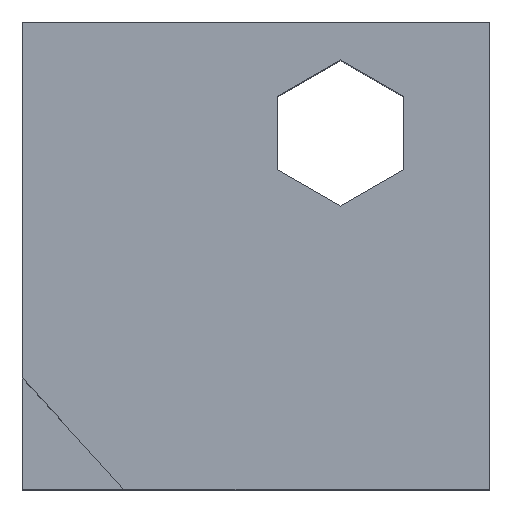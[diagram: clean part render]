
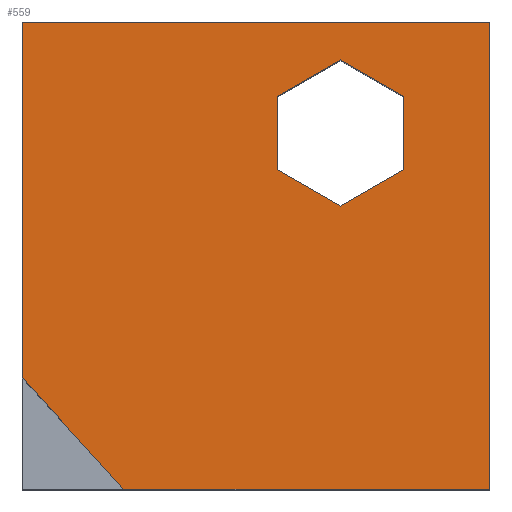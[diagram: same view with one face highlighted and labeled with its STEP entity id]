
A CAD part, top view. The second image highlights one B-rep face of the part: STEP entity #559.
In plain terms, the highlighted planar face has unit normal (0, 0, 1).
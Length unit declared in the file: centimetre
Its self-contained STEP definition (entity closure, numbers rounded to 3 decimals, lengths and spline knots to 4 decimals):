
#14 = VECTOR ( 'NONE', #530, 100. ) ;
#17 = VERTEX_POINT ( 'NONE', #358 ) ;
#29 = EDGE_CURVE ( 'NONE', #743, #600, #126, .T. ) ;
#32 = CARTESIAN_POINT ( 'NONE',  ( 816.2577, 840.9238, 1000. ) ) ;
#34 = VECTOR ( 'NONE', #726, 100. ) ;
#46 = CARTESIAN_POINT ( 'NONE',  ( 545.4409, 840.9238, 1000. ) ) ;
#47 = VECTOR ( 'NONE', #509, 100. ) ;
#56 = VERTEX_POINT ( 'NONE', #58 ) ;
#58 = CARTESIAN_POINT ( 'NONE',  ( 680.6577, 918.77, 1000. ) ) ;
#62 = EDGE_CURVE ( 'NONE', #17, #615, #419, .T. ) ;
#63 = CARTESIAN_POINT ( 'NONE',  ( 0., 1000., 1000. ) ) ;
#64 = VECTOR ( 'NONE', #110, 100. ) ;
#71 = EDGE_LOOP ( 'NONE', ( #208, #94, #589, #340, #397, #248 ) ) ;
#73 = LINE ( 'NONE', #363, #47 ) ;
#94 = ORIENTED_EDGE ( 'NONE', *, *, #684, .F. ) ;
#107 = CARTESIAN_POINT ( 'NONE',  ( 680.6577, 606.0576, 1000. ) ) ;
#110 = DIRECTION ( 'NONE',  ( 0., 1., 0. ) ) ;
#126 = LINE ( 'NONE', #131, #402 ) ;
#131 = CARTESIAN_POINT ( 'NONE',  ( 545.4409, 683.9038, 1000. ) ) ;
#136 = VECTOR ( 'NONE', #687, 100. ) ;
#145 = VECTOR ( 'NONE', #500, 100. ) ;
#153 = EDGE_CURVE ( 'NONE', #615, #560, #232, .T. ) ;
#159 = LINE ( 'NONE', #107, #227 ) ;
#163 = VECTOR ( 'NONE', #189, 100. ) ;
#172 = EDGE_CURVE ( 'NONE', #775, #381, #73, .T. ) ;
#189 = DIRECTION ( 'NONE',  ( 0., 1., 0. ) ) ;
#199 = AXIS2_PLACEMENT_3D ( 'NONE', #909, #774, #206 ) ;
#203 = CARTESIAN_POINT ( 'NONE',  ( 816.2577, 683.9038, 1000. ) ) ;
#206 = DIRECTION ( 'NONE',  ( 1., 0., 0. ) ) ;
#208 = ORIENTED_EDGE ( 'NONE', *, *, #836, .F. ) ;
#227 = VECTOR ( 'NONE', #387, 100. ) ;
#232 = LINE ( 'NONE', #710, #145 ) ;
#234 = EDGE_CURVE ( 'NONE', #775, #560, #238, .T. ) ;
#238 = LINE ( 'NONE', #604, #14 ) ;
#248 = ORIENTED_EDGE ( 'NONE', *, *, #716, .F. ) ;
#253 = CARTESIAN_POINT ( 'NONE',  ( 1000., 1000., 1000. ) ) ;
#286 = CARTESIAN_POINT ( 'NONE',  ( 0., 238.2422, 1000. ) ) ;
#300 = DIRECTION ( 'NONE',  ( -0.867, -0.499, 0. ) ) ;
#333 = EDGE_CURVE ( 'NONE', #56, #858, #417, .T. ) ;
#340 = ORIENTED_EDGE ( 'NONE', *, *, #701, .F. ) ;
#351 = ORIENTED_EDGE ( 'NONE', *, *, #153, .T. ) ;
#358 = CARTESIAN_POINT ( 'NONE',  ( 1000., 1000., 1000. ) ) ;
#363 = CARTESIAN_POINT ( 'NONE',  ( 0., 0., 1000. ) ) ;
#364 = VECTOR ( 'NONE', #637, 100. ) ;
#365 = CARTESIAN_POINT ( 'NONE',  ( 816.2577, 840.9238, 1000. ) ) ;
#373 = CARTESIAN_POINT ( 'NONE',  ( 680.6577, 606.0576, 1000. ) ) ;
#381 = VERTEX_POINT ( 'NONE', #649 ) ;
#387 = DIRECTION ( 'NONE',  ( 0.867, 0.498, 0. ) ) ;
#397 = ORIENTED_EDGE ( 'NONE', *, *, #333, .F. ) ;
#402 = VECTOR ( 'NONE', #757, 100. ) ;
#410 = VERTEX_POINT ( 'NONE', #203 ) ;
#417 = LINE ( 'NONE', #625, #787 ) ;
#419 = LINE ( 'NONE', #63, #364 ) ;
#463 = FACE_BOUND ( 'NONE', #71, .T. ) ;
#500 = DIRECTION ( 'NONE',  ( 0., -1., 0. ) ) ;
#509 = DIRECTION ( 'NONE',  ( 1., 0., 0. ) ) ;
#528 = CARTESIAN_POINT ( 'NONE',  ( 816.2577, 683.9038, 1000. ) ) ;
#530 = DIRECTION ( 'NONE',  ( -0.673, 0.739, 0. ) ) ;
#531 = CARTESIAN_POINT ( 'NONE',  ( 216.8972, 0., 1000. ) ) ;
#534 = ORIENTED_EDGE ( 'NONE', *, *, #172, .T. ) ;
#559 = ADVANCED_FACE ( 'NONE', ( #463, #913 ), #638, .T. ) ;
#560 = VERTEX_POINT ( 'NONE', #286 ) ;
#589 = ORIENTED_EDGE ( 'NONE', *, *, #29, .F. ) ;
#597 = LINE ( 'NONE', #528, #64 ) ;
#600 = VERTEX_POINT ( 'NONE', #373 ) ;
#604 = CARTESIAN_POINT ( 'NONE',  ( 0., 238.2422, 1000. ) ) ;
#615 = VERTEX_POINT ( 'NONE', #799 ) ;
#625 = CARTESIAN_POINT ( 'NONE',  ( 680.6577, 918.77, 1000. ) ) ;
#627 = VERTEX_POINT ( 'NONE', #365 ) ;
#637 = DIRECTION ( 'NONE',  ( -1., 0., 0. ) ) ;
#638 = PLANE ( 'NONE',  #199 ) ;
#639 = CARTESIAN_POINT ( 'NONE',  ( 545.4409, 840.9238, 1000. ) ) ;
#649 = CARTESIAN_POINT ( 'NONE',  ( 1000., 0., 1000. ) ) ;
#673 = LINE ( 'NONE', #32, #136 ) ;
#684 = EDGE_CURVE ( 'NONE', #600, #410, #159, .T. ) ;
#685 = EDGE_LOOP ( 'NONE', ( #832, #534, #692, #915, #351 ) ) ;
#687 = DIRECTION ( 'NONE',  ( -0.867, 0.498, 0. ) ) ;
#692 = ORIENTED_EDGE ( 'NONE', *, *, #760, .T. ) ;
#701 = EDGE_CURVE ( 'NONE', #858, #743, #812, .T. ) ;
#710 = CARTESIAN_POINT ( 'NONE',  ( 0., 1000., 1000. ) ) ;
#716 = EDGE_CURVE ( 'NONE', #627, #56, #673, .T. ) ;
#726 = DIRECTION ( 'NONE',  ( 0., -1., 0. ) ) ;
#733 = CARTESIAN_POINT ( 'NONE',  ( 545.4409, 683.9038, 1000. ) ) ;
#743 = VERTEX_POINT ( 'NONE', #733 ) ;
#747 = LINE ( 'NONE', #253, #163 ) ;
#757 = DIRECTION ( 'NONE',  ( 0.867, -0.499, 0. ) ) ;
#760 = EDGE_CURVE ( 'NONE', #381, #17, #747, .T. ) ;
#774 = DIRECTION ( 'NONE',  ( 0., 0., 1. ) ) ;
#775 = VERTEX_POINT ( 'NONE', #531 ) ;
#787 = VECTOR ( 'NONE', #300, 100. ) ;
#799 = CARTESIAN_POINT ( 'NONE',  ( 0., 1000., 1000. ) ) ;
#812 = LINE ( 'NONE', #46, #34 ) ;
#832 = ORIENTED_EDGE ( 'NONE', *, *, #234, .F. ) ;
#836 = EDGE_CURVE ( 'NONE', #410, #627, #597, .T. ) ;
#858 = VERTEX_POINT ( 'NONE', #639 ) ;
#909 = CARTESIAN_POINT ( 'NONE',  ( 0., 0., 1000. ) ) ;
#913 = FACE_OUTER_BOUND ( 'NONE', #685, .T. ) ;
#915 = ORIENTED_EDGE ( 'NONE', *, *, #62, .T. ) ;
